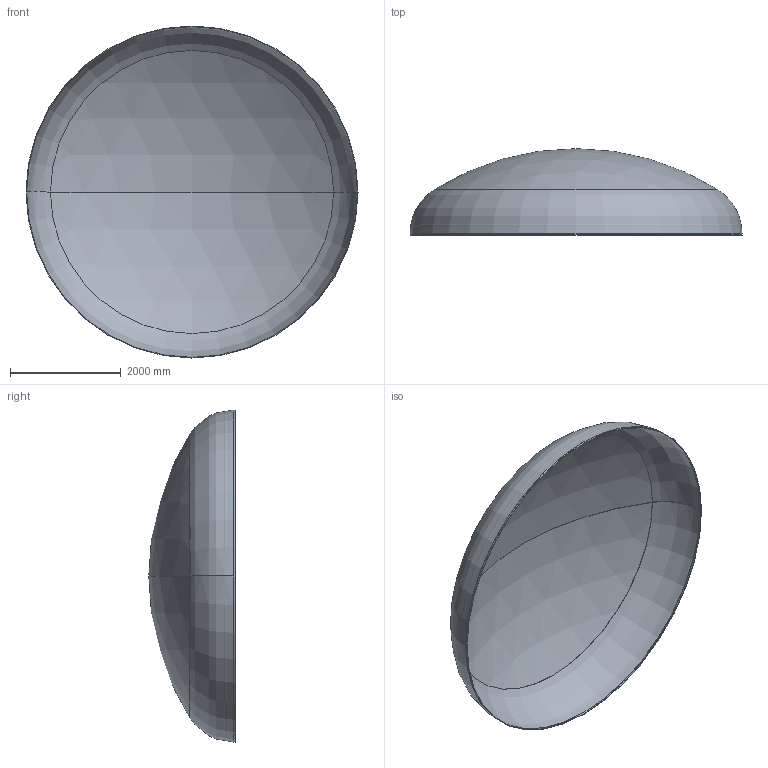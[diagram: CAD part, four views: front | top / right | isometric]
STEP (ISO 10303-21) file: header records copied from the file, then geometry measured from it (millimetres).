
FILE_DESCRIPTION (( 'STEP AP203' ), '1' );
FILE_NAME ('DIN 28013 Korbbogenform_-_Boden DIN 28013 - 6000 x 30 - I - s=10.step', '2016-07-04T10:35:40', ( '' ), ( '' ), 'SwSTEP 2.0', 'SolidWorks 2013', '' );
FILE_SCHEMA (( 'CONFIG_CONTROL_DESIGN' ));
Length unit declared in the file: millimetre
Products named in the file (1): DIN 28013 Korbbogenform_-_Boden DIN 28013 - 6000 x 30 - I - s=10
Bounding box: 6000 x 1561.07 x 6000 mm (x, y, z)
Volume: 396499775.3 mm3; surface area: 79488313 mm2
Topology: 1 solids, 1 shells, 13 faces, 24 edges, 14 vertices
Faces by surface type: torus 4, cylinder 4, sphere 4, plane 1
Entity records: 407 total; most frequent: DIRECTION 72, CARTESIAN_POINT 52, ORIENTED_EDGE 48, AXIS2_PLACEMENT_3D 34, EDGE_CURVE 24, CIRCLE 20, VERTEX_POINT 14, EDGE_LOOP 14
